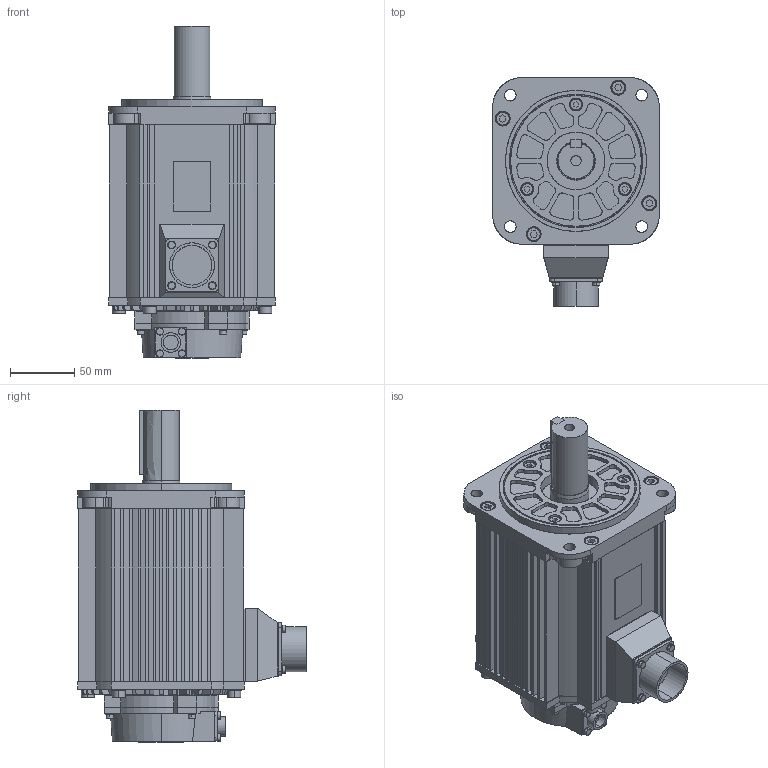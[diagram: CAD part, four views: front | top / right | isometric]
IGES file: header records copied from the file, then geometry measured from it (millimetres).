
Start section: SolidWorks IGES file using analytic representation for surfaces
Global section: file name: C:\YASKAWA\sgmsv_30__a61.IGS; native system: SolidWorks 2006 by SolidWorks Corporation; preprocessor: SolidWorks 2006 by SolidWorks Corporation; author: yamanouchi; date: 090922.091736; units: millimetre
Bounding box: 130 x 178.25 x 259.1 mm (x, y, z)
Surface area: 200734.3 mm2 (no closed solid volume)
Topology: 0 solids, 0 shells, 955 faces, 10928 edges, 10928 vertices
Faces by surface type: bspline 641, revolution 314
